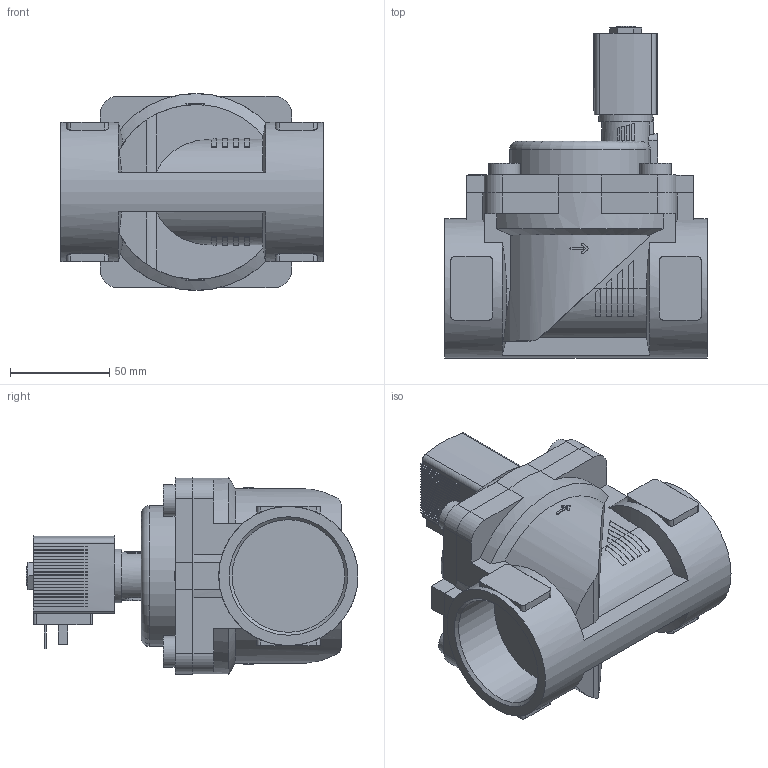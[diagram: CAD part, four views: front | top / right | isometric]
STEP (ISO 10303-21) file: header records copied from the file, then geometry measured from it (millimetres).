
FILE_DESCRIPTION(/* description */ ('STEP AP214'),/* implementation_level */ '2;1');
FILE_NAME(/* name */ '6281-238461-2_2-Way_Solenoid_Valve__Servo-assisted__General_Purpose',/* time_stamp */ '2024-09-04T15:59:55+02:00',/* author */ ('License CC BY-ND 4.0'),/* organization */ ('CADENAS'),/* preprocessor_version */ 'ST-DEVELOPER v19.3',/* originating_system */ 'PARTsolutions',/* authorisation */ ' ');
FILE_SCHEMA (('AUTOMOTIVE_DESIGN {1 0 10303 214 3 1 1}'));
Length unit declared in the file: millimetre
Products named in the file (4): 6281-238461-2/2-Way Solenoid Valve, Servo-assisted, General Purpose; 5281ev400VA2/2-Wege-Magnetventil mit Servomembran-Deckel 99 ; 6213-40G2VA-Gehaeuse-; AC10ex-5OO-Plan-Coil
Assembly tree (3 placements, depth 2):
  6281-238461-2/2-Way Solenoid Valve, Servo-assisted, General Purpose
    5281ev400VA2/2-Wege-Magnetventil mit Servomembran-Deckel 99 
    6213-40G2VA-Gehaeuse-
    AC10ex-5OO-Plan-Coil
Bounding box: 132 x 167 x 99 mm (x, y, z)
Volume: 749831.9 mm3; surface area: 103506.6 mm2
Topology: 3 solids, 3 shells, 555 faces, 1556 edges, 1032 vertices
Faces by surface type: plane 445, cylinder 94, cone 15, torus 1
Full cylindrical faces by diameter (mm): 2.013 x1, 9.74 x1, 16 x4, 27 x1, 56.656 x2, 70 x1
Entity records: 20453 total; most frequent: CARTESIAN_POINT 3387, ORIENTED_EDGE 3064, DIRECTION 2892, EDGE_CURVE 1532, LINE 1144, VECTOR 1144, VERTEX_POINT 1024, AXIS2_PLACEMENT_3D 874
